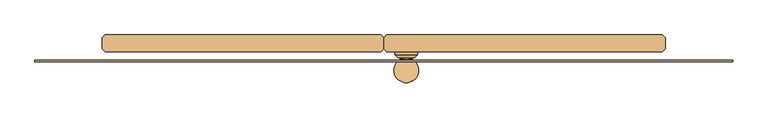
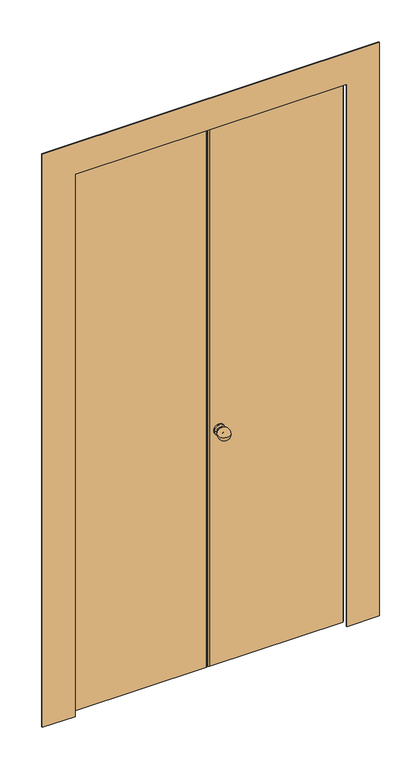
"""IFC4 building model written with IfcOpenShell, lengths in millimetres: door geometry, Placard pliante : Placard pliante 100."""

import ifcopenshell
import ifcopenshell.guid

model = None  # the IFC model being written
_history = None  # IfcOwnerHistory: only IFC2X3 demands one
_inside = {}  # id of a spatial element -> (the spatial element, [elements in it])
_under = {}  # id of a project, library or spatial element -> (it, [spatial elements below it])
_declared = {}  # id of a project -> (the project, [libraries it declares])
_typed = {}  # id of a type object -> (the type object, [elements of that type])
_made_of = {}  # id of a material, layer set ... -> (it, [elements and type objects made of it])


def new_model(schema):
    """Start an empty IFC model of exactly this schema.

    Asked for "IFC4X3", IfcOpenShell would pick the latest addendum, in which some entities
    have other attributes; the version numbers below select the first issue.
    IFC2X3 requires an IfcOwnerHistory on every rooted entity: one is made here for all.
    """
    global model, _history
    if schema == "IFC4X3":
        model = ifcopenshell.file(schema_version=(4, 3, 0, 0))
    else:
        model = ifcopenshell.file(schema=schema)
    _inside.clear()
    _under.clear()
    _declared.clear()
    _typed.clear()
    _made_of.clear()
    _history = None
    if model.schema == "IFC2X3":
        org = make("IfcOrganization", Name="unknown")
        user = make(
            "IfcPersonAndOrganization",
            ThePerson=make("IfcPerson", FamilyName="unknown"),
            TheOrganization=org,
        )
        app = make(
            "IfcApplication",
            ApplicationDeveloper=org,
            Version="unknown",
            ApplicationFullName="unknown",
            ApplicationIdentifier="unknown",
        )
        _history = make(
            "IfcOwnerHistory",
            OwningUser=user,
            OwningApplication=app,
            ChangeAction="ADDED",
            CreationDate=0,
        )
    return model


def make(cls, **values):
    """One entity of the class cls with the attributes given. An attribute that is None is left unset."""
    return model.create_entity(
        cls, **{name: value for name, value in values.items() if value is not None}
    )


def rooted(cls, **values):
    """An entity with a GlobalId (a new one), such as an element, a storey or a relation."""
    return make(cls, GlobalId=ifcopenshell.guid.new(), OwnerHistory=_history, **values)


def si_unit(unit_type, name, prefix=None):
    """IfcSIUnit, for example si_unit("LENGTHUNIT", "METRE", prefix="MILLI")."""
    return make("IfcSIUnit", UnitType=unit_type, Prefix=prefix, Name=name)


def assignment(units):
    """IfcUnitAssignment: the units of a project."""
    return None if units is None else make("IfcUnitAssignment", Units=units)


def point(xyz):
    """IfcCartesianPoint."""
    return None if xyz is None else make("IfcCartesianPoint", Coordinates=xyz)


def direction(xyz):
    """IfcDirection."""
    return None if xyz is None else make("IfcDirection", DirectionRatios=xyz)


def frame(location, z_axis=None, x_axis=None):
    """IfcAxis2Placement3D, a coordinate frame: its origin and axes. An axis left out is left unset."""
    return make(
        "IfcAxis2Placement3D",
        Location=point(location),
        Axis=direction(z_axis),
        RefDirection=direction(x_axis),
    )


def origin():
    """The frame at (0, 0, 0) with its axes left unset."""
    return frame((0.0, 0.0, 0.0))


def origin_with_axes():
    """The frame at (0, 0, 0) with the z axis (0, 0, 1) and the x axis (1, 0, 0) written out."""
    return frame((0.0, 0.0, 0.0), z_axis=(0.0, 0.0, 1.0), x_axis=(1.0, 0.0, 0.0))


def place(relative_to, where):
    """IfcLocalPlacement: puts the frame where relative to a parent placement (None: the world)."""
    return make(
        "IfcLocalPlacement", PlacementRelTo=relative_to, RelativePlacement=where
    )


def context(
    kind, dimensions, precision=None, world=None, true_north=None, identifier=None
):
    """IfcGeometricRepresentationContext, for example the 3D "Model" context."""
    return make(
        "IfcGeometricRepresentationContext",
        ContextIdentifier=identifier,
        ContextType=kind,
        CoordinateSpaceDimension=dimensions,
        Precision=precision,
        WorldCoordinateSystem=world,
        TrueNorth=true_north,
    )


def project(units=None, contexts=None):
    """IfcProject with its units and contexts."""
    return rooted(
        "IfcProject",
        Name="project",
        RepresentationContexts=contexts,
        UnitsInContext=assignment(units),
    )


def spatial(cls, under=None, at=None, **own):
    """A site, building, storey or space (cls), placed at a placement, below another one or the project."""
    s = rooted(cls, ObjectPlacement=at, **own)
    if under is not None:
        _under.setdefault(under.id(), (under, []))[1].append(s)
    return s


def polyline(points):
    """IfcPolyline through the points."""
    return make("IfcPolyline", Points=[point(p) for p in points])


def circle_curve(where, radius):
    """IfcCircle in the frame where."""
    return make("IfcCircle", Position=where, Radius=radius)


def ellipse_curve(where, semi_axis1, semi_axis2):
    """IfcEllipse in the frame where."""
    return make(
        "IfcEllipse", Position=where, SemiAxis1=semi_axis1, SemiAxis2=semi_axis2
    )


def trimmed(basis, trim1, trim2, sense, master):
    """IfcTrimmedCurve: the piece of a basis curve between two trims."""
    return make(
        "IfcTrimmedCurve",
        BasisCurve=basis,
        Trim1=trim1,
        Trim2=trim2,
        SenseAgreement=sense,
        MasterRepresentation=master,
    )


def outline(outer, holes=None, kind="AREA"):
    """IfcArbitraryClosedProfileDef: a profile drawn as a closed curve; with holes, ...WithVoids."""
    if holes is None:
        return make("IfcArbitraryClosedProfileDef", ProfileType=kind, OuterCurve=outer)
    return make(
        "IfcArbitraryProfileDefWithVoids",
        ProfileType=kind,
        OuterCurve=outer,
        InnerCurves=holes,
    )


def extrude(swept, where, along, depth):
    """IfcExtrudedAreaSolid: the profile swept, set in the frame where, extruded along a direction by depth."""
    return make(
        "IfcExtrudedAreaSolid",
        SweptArea=swept,
        Position=where,
        ExtrudedDirection=direction(along),
        Depth=depth,
    )


def shape(context_of_items, identifier, shape_type, items):
    """IfcShapeRepresentation: the items that make up one representation, for example the "Body"."""
    return make(
        "IfcShapeRepresentation",
        ContextOfItems=context_of_items,
        RepresentationIdentifier=identifier,
        RepresentationType=shape_type,
        Items=items,
    )


def source(mapping_origin, context_of_items, identifier, shape_type, items):
    """IfcRepresentationMap: a shape defined once, which mapped items show again and again."""
    return make(
        "IfcRepresentationMap",
        MappingOrigin=mapping_origin,
        MappedRepresentation=shape(context_of_items, identifier, shape_type, items),
    )


def transform(
    local_origin,
    x_axis=None,
    y_axis=None,
    z_axis=None,
    scale=None,
    scale2=None,
    scale3=None,
    uniform=True,
):
    """IfcCartesianTransformationOperator3D, or its non-uniform kind. x_axis, y_axis, z_axis: its Axis1, 2, 3."""
    if uniform:
        return make(
            "IfcCartesianTransformationOperator3D",
            Axis1=direction(x_axis),
            Axis2=direction(y_axis),
            LocalOrigin=point(local_origin),
            Scale=scale,
            Axis3=direction(z_axis),
        )
    return make(
        "IfcCartesianTransformationOperator3DnonUniform",
        Axis1=direction(x_axis),
        Axis2=direction(y_axis),
        LocalOrigin=point(local_origin),
        Scale=scale,
        Axis3=direction(z_axis),
        Scale2=scale2,
        Scale3=scale3,
    )


def mapped(mapping_source, mapping_target):
    """IfcMappedItem: shows the shape of a source again, moved by a transform."""
    return make(
        "IfcMappedItem", MappingSource=mapping_source, MappingTarget=mapping_target
    )


def made_of(thing, what):
    """Note that an element or type object is made of a material, layer set ...; save() writes the relation."""
    if what is not None:
        _made_of.setdefault(what.id(), (what, []))[1].append(thing)
    return thing


def element(
    cls,
    number,
    at=None,
    inside=None,
    cuts=None,
    type_object=None,
    material=None,
    context=None,
    identifier="Body",
    shape_type=None,
    held_by="IfcProductDefinitionShape",
    body=None,
    shapes=None,
    **own,
):
    """One element of the class cls, such as IfcWall. Its Tag is "e" and its number.

    at: its placement. inside: the storey or other place that contains it. cuts: it is an
    opening in that element (IfcRelVoidsElement). A single representation is given by context,
    identifier, shape_type and body (its items); several are given by shapes. held_by: the class
    of the entity that holds the representations. save() writes the other relations.
    """
    e = rooted(cls, Tag="e%d" % number, ObjectPlacement=at, **own)
    if body is not None:
        shapes = [shape(context, identifier, shape_type, body)]
    if shapes is not None:
        e.Representation = make(held_by, Representations=shapes)
    if inside is not None:
        _inside.setdefault(inside.id(), (inside, []))[1].append(e)
    if cuts is not None:
        rooted(
            "IfcRelVoidsElement", RelatingBuildingElement=cuts, RelatedOpeningElement=e
        )
    if type_object is not None:
        _typed.setdefault(type_object.id(), (type_object, []))[1].append(e)
    return made_of(e, material)


def aggregate(whole, parts):
    """IfcRelAggregates: a whole, such as a stair, and the parts it consists of."""
    return rooted("IfcRelAggregates", RelatingObject=whole, RelatedObjects=parts)


def save(model, path):
    """Write the relations noted so far, then the file.

    IfcRelAggregates (storeys below a building ...), IfcRelContainedInSpatialStructure (elements
    in a storey), IfcRelDefinesByType, IfcRelAssociatesMaterial and IfcRelDeclares: one each for
    every whole, place, type object, material and project.
    """
    for whole, parts in _under.values():
        aggregate(whole, parts)
    for where, things in _inside.values():
        rooted(
            "IfcRelContainedInSpatialStructure",
            RelatedElements=things,
            RelatingStructure=where,
        )
    for kind, things in _typed.values():
        rooted("IfcRelDefinesByType", RelatedObjects=things, RelatingType=kind)
    for what, things in _made_of.values():
        rooted("IfcRelAssociatesMaterial", RelatedObjects=things, RelatingMaterial=what)
    for by, libraries in _declared.values():
        rooted("IfcRelDeclares", RelatingContext=by, RelatedDefinitions=libraries)
    model.write(path)


def plane_surface(at):
    """IfcPlane: the flat surface through the origin of the frame at, square to its z axis."""
    return make("IfcPlane", Position=at)


def cylinder_surface(at, radius):
    """IfcCylindricalSurface: all points at the distance radius from the z axis of the frame at."""
    return make("IfcCylindricalSurface", Position=at, Radius=radius)


def revolved_surface(curve, axis_point, axis_direction):
    """IfcSurfaceOfRevolution: the curve turned about the line through axis_point along axis_direction."""
    return make(
        "IfcSurfaceOfRevolution",
        SweptCurve=make("IfcArbitraryOpenProfileDef", ProfileType="CURVE", Curve=curve),
        AxisPosition=make("IfcAxis1Placement", Location=point(axis_point), Axis=direction(axis_direction)),
    )


def advanced_brep(points, edges, surfaces, faces):
    """IfcAdvancedBrep: a solid bounded by faces that lie on surfaces and meet in shared edges.

    An edge is (start, end): straight between two places in points (the first is 0);
    or (start, end, curve); or (start, end, curve, False) where it runs against its curve.
    A face is (place in surfaces, loops), or (place, loops, False) where it looks against
    its surface's normal. A loop lists edges by number (the first is 1), with a minus sign
    where the edge is run from its end to its start. The first loop is the outer one.
    """
    corners = [point(p) for p in points]
    vertices = [make("IfcVertexPoint", VertexGeometry=c) for c in corners]
    made = []
    for start, end, *more in edges:
        made.append(
            make(
                "IfcEdgeCurve",
                EdgeStart=vertices[start],
                EdgeEnd=vertices[end],
                EdgeGeometry=more[0] if more else make("IfcPolyline", Points=[corners[start], corners[end]]),
                SameSense=more[1] if len(more) > 1 else True,
            )
        )
    hull = []
    for where, loops, *sense in faces:
        bounds = []
        for j, loop in enumerate(loops):
            ring = [make("IfcOrientedEdge", EdgeElement=made[abs(k) - 1], Orientation=k > 0) for k in loop]
            bounds.append(
                make(
                    "IfcFaceOuterBound" if j == 0 else "IfcFaceBound",
                    Bound=make("IfcEdgeLoop", EdgeList=ring),
                    Orientation=True,
                )
            )
        hull.append(make("IfcAdvancedFace", Bounds=bounds, FaceSurface=surfaces[where], SameSense=sense[0] if sense else True))
    return make("IfcAdvancedBrep", Outer=make("IfcClosedShell", CfsFaces=hull))


def door_0c80fb6a(model_context):
    return source(origin(), model_context, "Body", "SolidModel", [
        advanced_brep(
        [(50.0, -32.7245901, 910.0), (30.0, -32.7245901, 910.0), (30.0, -30.0, 910.0), (50.0, -30.0, 910.0), (40.0, -74.3205081, 910.0), (60.0, -20.0, 910.0), (20.0, -20.0, 910.0), (40.0, -20.0, 910.0), (60.0, -25.0, 910.0), (20.0, -25.0, 910.0), (55.0, -30.0, 910.0), (25.0, -30.0, 910.0)],
        [
            (0, 1, circle_curve(frame((40.0, -32.7245901, 910.0), z_axis=(0.0, 1.0, 0.0), x_axis=(-1.0, 0.0, 0.0)), 10.0)),
            (1, 2),
            (2, 3, circle_curve(frame((40.0, -30.0, 910.0), z_axis=(0.0, -1.0, 0.0), x_axis=(-1.0, 0.0, 0.0)), 10.0)),
            (3, 0),
            (1, 0, circle_curve(frame((40.0, -32.7245901, 910.0), z_axis=(0.0, 1.0, 0.0), x_axis=(-1.0, 0.0, 0.0)), 10.0)),
            (3, 2, circle_curve(frame((40.0, -30.0, 910.0), z_axis=(0.0, -1.0, 0.0), x_axis=(-1.0, 0.0, 0.0)), 10.0)),
            (4, 1, circle_curve(frame((40.0, -52.3205081, 910.0), z_axis=(0.0, 0.0, -1.0), x_axis=(0.0, -1.0, 0.0)), 22.0)),
            (0, 4, circle_curve(frame((40.0, -52.3205081, 910.0), z_axis=(0.0, 0.0, -1.0), x_axis=(0.0, -1.0, 0.0)), 22.0)),
            (5, 6, circle_curve(frame((40.0, -20.0, 910.0), z_axis=(0.0, 1.0, 0.0), x_axis=(-1.0, 0.0, 0.0)), 20.0)),
            (6, 7),
            (7, 5),
            (6, 5, circle_curve(frame((40.0, -20.0, 910.0), z_axis=(0.0, 1.0, 0.0), x_axis=(-1.0, 0.0, 0.0)), 20.0)),
            (8, 9, circle_curve(frame((40.0, -25.0, 910.0), z_axis=(0.0, 1.0, 0.0), x_axis=(-1.0, 0.0, 0.0)), 20.0)),
            (9, 6),
            (5, 8),
            (9, 8, circle_curve(frame((40.0, -25.0, 910.0), z_axis=(0.0, 1.0, 0.0), x_axis=(-1.0, 0.0, 0.0)), 20.0)),
            (10, 11, circle_curve(frame((40.0, -30.0, 910.0), z_axis=(0.0, 1.0, 0.0), x_axis=(-1.0, 0.0, 0.0)), 15.0)),
            (11, 9),
            (8, 10),
            (11, 10, circle_curve(frame((40.0, -30.0, 910.0), z_axis=(0.0, 1.0, 0.0), x_axis=(-1.0, 0.0, 0.0)), 15.0)),
            (2, 11),
            (10, 3),
        ],
        [
            cylinder_surface(frame((40.0, 569.1103609, 910.0), z_axis=(0.0, -1.0, 0.0), x_axis=(-1.0, 0.0, 0.0)), 10.0),
            revolved_surface(trimmed(ellipse_curve(frame((40.0, -52.3205081, 910.0), z_axis=(0.0, 0.0, 1.0), x_axis=(0.0, -1.0, 0.0)), 22.0, 22.0), [point((30.0, -32.7245901, 910.0))], [point((40.0, -74.3205081, 910.0))], True, "CARTESIAN"), (40.0, 569.1103609, 910.0), (0.0, -1.0, 0.0)),
            plane_surface(frame((40.0, -20.0, 910.0), z_axis=(0.0, 1.0, 0.0), x_axis=(-1.0, 0.0, 0.0))),
            cylinder_surface(frame((40.0, 569.1103609, 910.0), z_axis=(0.0, -1.0, 0.0), x_axis=(-1.0, 0.0, 0.0)), 20.0),
            revolved_surface(polyline([(20.0, -25.0, 910.0), (25.0, -30.0, 910.0)]), (40.0, 569.1103609, 910.0), (0.0, -1.0, 0.0)),
            plane_surface(frame((40.0, -30.0, 910.0), z_axis=(0.0, -1.0, 0.0), x_axis=(-1.0, 0.0, 0.0))),
        ],
        [
            (0, [[1, 2, 3, 4]]),
            (0, [[5, -4, 6, -2]]),
            (1, [[7, -1, 8]]),
            (1, [[-8, -5, -7]]),
            (2, [[9, 10, 11]]),
            (2, [[12, -11, -10]]),
            (3, [[13, 14, -9, 15]]),
            (3, [[16, -15, -12, -14]]),
            (4, [[17, 18, -13, 19]]),
            (4, [[20, -19, -16, -18]]),
            (5, [[-3, 21, -17, 22]]),
            (5, [[-6, -22, -20, -21]]),
        ],
    ),
        extrude(outline(polyline([(494.9960715, -20.0), (5.0039285, -20.0), (0.0, -15.0), (0.0, 5.0), (5.0039285, 10.0), (494.9960715, 10.0), (500.0, 5.0), (500.0, -15.0), (494.9960715, -20.0)])), origin_with_axes(), (0.0, 0.0, 1.0), 2100.0),
        extrude(outline(polyline([(-5.0039285, -20.0), (-494.9960715, -20.0), (-500.0, -15.0), (-500.0, 5.0), (-494.9960715, 10.0), (-5.0039285, 10.0), (0.0, 5.0), (0.0, -15.0), (-5.0039285, -20.0)])), origin_with_axes(), (0.0, 0.0, 1.0), 2100.0),
        extrude(outline(polyline([(2220.0, 620.0), (2220.0, -620.0), (-7.4641799, -620.0), (-7.4641799, -500.0), (2100.0, -500.0), (2100.0, 500.0), (-7.4641799, 500.0), (-7.4641799, 620.0), (2220.0, 620.0)])), frame((0.0, -38.0, 0.0), z_axis=(0.0, 1.0, 0.0), x_axis=(0.0, 0.0, 1.0)), (0.0, 0.0, 1.0), 3.0),
    ])


if __name__ == "__main__":
    model = new_model("IFC4")
    model_context = context("Model", 3, world=origin())
    ifc_project = project(units=[si_unit("LENGTHUNIT", "METRE", prefix="MILLI")], contexts=[model_context])
    site = spatial("IfcSite", under=ifc_project)
    building = spatial("IfcBuilding", under=site)
    placement = place(None, origin())
    door_shape = door_0c80fb6a(model_context)
    element("IfcDoor", 1, ObjectType="Placard pliante : Placard pliante 100", at=placement, inside=building, context=model_context, shape_type="MappedRepresentation", body=[
        mapped(door_shape, transform((0.0, 0.0, 0.0), x_axis=(1.0, 0.0, 0.0), y_axis=(0.0, 1.0, 0.0), z_axis=(0.0, 0.0, 1.0))),
    ])
    save(model, "model.ifc")
